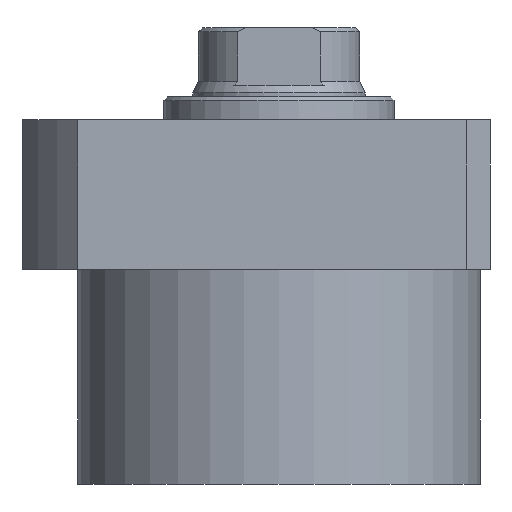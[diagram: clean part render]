
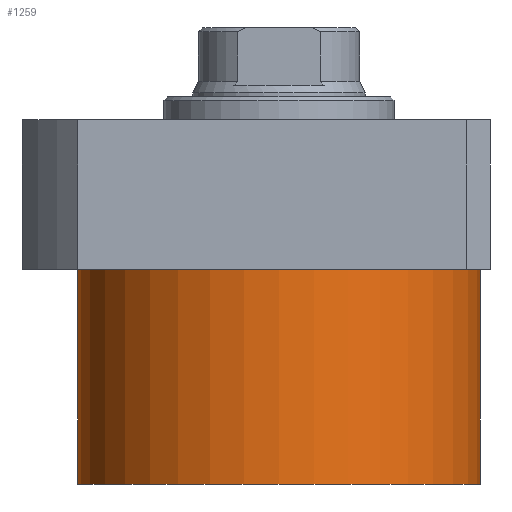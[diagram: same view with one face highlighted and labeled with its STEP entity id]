
A CAD part, front view. The second image highlights one B-rep face of the part: STEP entity #1259.
In plain terms, the highlighted cylindrical face has radius 52.5 mm (diameter 105 mm), a partial arc.
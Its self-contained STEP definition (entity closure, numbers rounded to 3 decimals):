
#5 = CARTESIAN_POINT ( 'NONE',  ( 0., 0., -75.5 ) ) ;
#128 = DIRECTION ( 'NONE',  ( 0., 0., -1. ) ) ;
#157 = DIRECTION ( 'NONE',  ( 0., 0., 1. ) ) ;
#166 = LINE ( 'NONE', #705, #1752 ) ;
#206 = AXIS2_PLACEMENT_3D ( 'NONE', #5, #563, #1196 ) ;
#250 = ORIENTED_EDGE ( 'NONE', *, *, #762, .T. ) ;
#277 = DIRECTION ( 'NONE',  ( 0., 0., 1. ) ) ;
#350 = CIRCLE ( 'NONE', #756, 52.5 ) ;
#397 = LINE ( 'NONE', #1484, #1519 ) ;
#436 = VERTEX_POINT ( 'NONE', #1194 ) ;
#514 = CARTESIAN_POINT ( 'NONE',  ( 0., 0., -75.5 ) ) ;
#551 = ORIENTED_EDGE ( 'NONE', *, *, #1409, .F. ) ;
#563 = DIRECTION ( 'NONE',  ( 0., 0., -1. ) ) ;
#566 = VERTEX_POINT ( 'NONE', #752 ) ;
#617 = AXIS2_PLACEMENT_3D ( 'NONE', #514, #1827, #1381 ) ;
#684 = VERTEX_POINT ( 'NONE', #1665 ) ;
#692 = CIRCLE ( 'NONE', #206, 52.5 ) ;
#705 = CARTESIAN_POINT ( 'NONE',  ( 52.5, 0., -75.5 ) ) ;
#752 = CARTESIAN_POINT ( 'NONE',  ( -52.5, 0., -75.5 ) ) ;
#756 = AXIS2_PLACEMENT_3D ( 'NONE', #1906, #128, #862 ) ;
#761 = VERTEX_POINT ( 'NONE', #1603 ) ;
#762 = EDGE_CURVE ( 'NONE', #761, #436, #166, .T. ) ;
#862 = DIRECTION ( 'NONE',  ( 1., 0., 0. ) ) ;
#1006 = EDGE_CURVE ( 'NONE', #436, #684, #350, .T. ) ;
#1083 = ORIENTED_EDGE ( 'NONE', *, *, #1006, .T. ) ;
#1194 = CARTESIAN_POINT ( 'NONE',  ( 52.5, 0., -19.5 ) ) ;
#1196 = DIRECTION ( 'NONE',  ( -1., 0., 0. ) ) ;
#1198 = CYLINDRICAL_SURFACE ( 'NONE', #617, 52.5 ) ;
#1259 = ADVANCED_FACE ( 'NONE', ( #1416 ), #1198, .T. ) ;
#1381 = DIRECTION ( 'NONE',  ( 1., 0., 0. ) ) ;
#1409 = EDGE_CURVE ( 'NONE', #761, #566, #692, .T. ) ;
#1416 = FACE_OUTER_BOUND ( 'NONE', #1688, .T. ) ;
#1484 = CARTESIAN_POINT ( 'NONE',  ( -52.5, 0., -75.5 ) ) ;
#1500 = EDGE_CURVE ( 'NONE', #566, #684, #397, .T. ) ;
#1519 = VECTOR ( 'NONE', #157, 1000. ) ;
#1603 = CARTESIAN_POINT ( 'NONE',  ( 52.5, 0., -75.5 ) ) ;
#1665 = CARTESIAN_POINT ( 'NONE',  ( -52.5, 0., -19.5 ) ) ;
#1688 = EDGE_LOOP ( 'NONE', ( #1781, #551, #250, #1083 ) ) ;
#1752 = VECTOR ( 'NONE', #277, 1000. ) ;
#1781 = ORIENTED_EDGE ( 'NONE', *, *, #1500, .F. ) ;
#1827 = DIRECTION ( 'NONE',  ( 0., 0., 1. ) ) ;
#1906 = CARTESIAN_POINT ( 'NONE',  ( 0., 0., -19.5 ) ) ;
